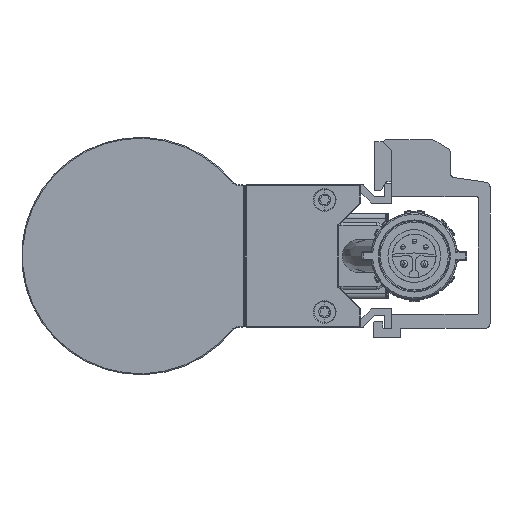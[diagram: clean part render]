
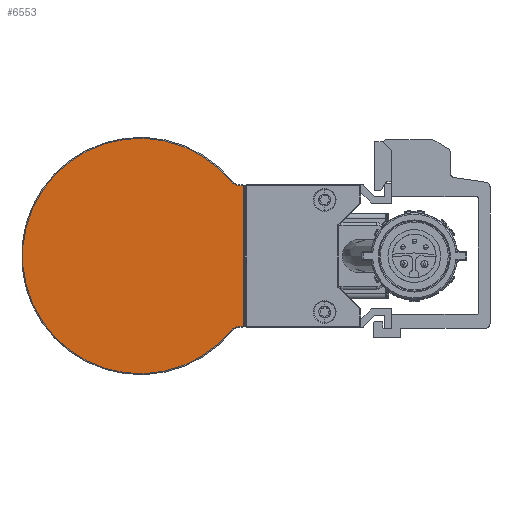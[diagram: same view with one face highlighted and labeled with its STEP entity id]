
A CAD part, left-side view. The second image highlights one B-rep face of the part: STEP entity #6553.
In plain terms, the highlighted planar face has unit normal (-1, 0, 0).
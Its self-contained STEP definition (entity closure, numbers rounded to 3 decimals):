
#265 = CARTESIAN_POINT ( 'NONE',  ( -150., 53.001, 0. ) ) ;
#1164 = VERTEX_POINT ( 'NONE', #10735 ) ;
#1210 = DIRECTION ( 'NONE',  ( 1., 0., 0. ) ) ;
#1422 = CARTESIAN_POINT ( 'NONE',  ( -150., 31.2, -14.5 ) ) ;
#1977 = EDGE_CURVE ( 'NONE', #11833, #1164, #22300, .T. ) ;
#2135 = AXIS2_PLACEMENT_3D ( 'NONE', #43259, #1210, #6245 ) ;
#2343 = VECTOR ( 'NONE', #8556, 1000. ) ;
#6245 = DIRECTION ( 'NONE',  ( 0., 0.777, 0.63 ) ) ;
#6553 = ADVANCED_FACE ( 'NONE', ( #13365 ), #17829, .T. ) ;
#6969 = ORIENTED_EDGE ( 'NONE', *, *, #45917, .T. ) ;
#7053 = CARTESIAN_POINT ( 'NONE',  ( -150., 31.5, -14.8 ) ) ;
#7244 = LINE ( 'NONE', #57435, #13424 ) ;
#8455 = ORIENTED_EDGE ( 'NONE', *, *, #29258, .T. ) ;
#8556 = DIRECTION ( 'NONE',  ( 0., 1., 0. ) ) ;
#9615 = EDGE_LOOP ( 'NONE', ( #6969, #25297, #49518, #37520, #8455, #56233, #53839, #40632 ) ) ;
#10342 = VERTEX_POINT ( 'NONE', #55138 ) ;
#10735 = CARTESIAN_POINT ( 'NONE',  ( -150., 33.734, -15.615 ) ) ;
#10825 = VERTEX_POINT ( 'NONE', #26931 ) ;
#10993 = CIRCLE ( 'NONE', #29133, 0.3 ) ;
#11833 = VERTEX_POINT ( 'NONE', #33276 ) ;
#11996 = VERTEX_POINT ( 'NONE', #23894 ) ;
#12706 = DIRECTION ( 'NONE',  ( 0., 0., -1. ) ) ;
#13365 = FACE_OUTER_BOUND ( 'NONE', #9615, .T. ) ;
#13424 = VECTOR ( 'NONE', #39178, 1000. ) ;
#14928 = CIRCLE ( 'NONE', #48262, 0.3 ) ;
#15358 = AXIS2_PLACEMENT_3D ( 'NONE', #58767, #35454, #53709 ) ;
#15523 = DIRECTION ( 'NONE',  ( 0., -1., 0. ) ) ;
#15816 = CARTESIAN_POINT ( 'NONE',  ( -150., 31.5, 14.5 ) ) ;
#16591 = AXIS2_PLACEMENT_3D ( 'NONE', #265, #18459, #23830 ) ;
#17829 = PLANE ( 'NONE',  #15358 ) ;
#18459 = DIRECTION ( 'NONE',  ( -1., 0., 0. ) ) ;
#18608 = VERTEX_POINT ( 'NONE', #7053 ) ;
#19622 = CIRCLE ( 'NONE', #34899, 2.2 ) ;
#21106 = VECTOR ( 'NONE', #46478, 1000. ) ;
#22300 = CIRCLE ( 'NONE', #16591, 24.8 ) ;
#23830 = DIRECTION ( 'NONE',  ( 0., -0.777, 0.63 ) ) ;
#23894 = CARTESIAN_POINT ( 'NONE',  ( -150., 31.5, 14.8 ) ) ;
#24304 = DIRECTION ( 'NONE',  ( 1., 0., 0. ) ) ;
#25297 = ORIENTED_EDGE ( 'NONE', *, *, #40006, .T. ) ;
#26931 = CARTESIAN_POINT ( 'NONE',  ( -150., 31.2, -14.5 ) ) ;
#27380 = CARTESIAN_POINT ( 'NONE',  ( -150., 31.5, 14.8 ) ) ;
#29133 = AXIS2_PLACEMENT_3D ( 'NONE', #58385, #48786, #12706 ) ;
#29258 = EDGE_CURVE ( 'NONE', #11996, #41020, #49446, .T. ) ;
#30326 = EDGE_CURVE ( 'NONE', #41020, #11833, #19622, .T. ) ;
#30721 = EDGE_CURVE ( 'NONE', #10342, #11996, #14928, .T. ) ;
#33075 = LINE ( 'NONE', #1422, #21106 ) ;
#33276 = CARTESIAN_POINT ( 'NONE',  ( -150., 33.734, 15.614 ) ) ;
#34899 = AXIS2_PLACEMENT_3D ( 'NONE', #51452, #24304, #42481 ) ;
#35454 = DIRECTION ( 'NONE',  ( -1., 0., 0. ) ) ;
#36173 = EDGE_CURVE ( 'NONE', #10825, #10342, #33075, .T. ) ;
#36585 = EDGE_CURVE ( 'NONE', #1164, #38528, #58398, .T. ) ;
#37520 = ORIENTED_EDGE ( 'NONE', *, *, #30721, .T. ) ;
#38528 = VERTEX_POINT ( 'NONE', #51446 ) ;
#39178 = DIRECTION ( 'NONE',  ( 0., -1., 0. ) ) ;
#40006 = EDGE_CURVE ( 'NONE', #18608, #10825, #10993, .T. ) ;
#40632 = ORIENTED_EDGE ( 'NONE', *, *, #36585, .T. ) ;
#41020 = VERTEX_POINT ( 'NONE', #41530 ) ;
#41530 = CARTESIAN_POINT ( 'NONE',  ( -150., 32.025, 14.8 ) ) ;
#42481 = DIRECTION ( 'NONE',  ( 0., 0., -1. ) ) ;
#43259 = CARTESIAN_POINT ( 'NONE',  ( -150., 32.025, -17. ) ) ;
#45917 = EDGE_CURVE ( 'NONE', #38528, #18608, #7244, .T. ) ;
#46478 = DIRECTION ( 'NONE',  ( 0., 0., 1. ) ) ;
#48262 = AXIS2_PLACEMENT_3D ( 'NONE', #15816, #51974, #15523 ) ;
#48786 = DIRECTION ( 'NONE',  ( -1., 0., 0. ) ) ;
#49446 = LINE ( 'NONE', #27380, #2343 ) ;
#49518 = ORIENTED_EDGE ( 'NONE', *, *, #36173, .T. ) ;
#51446 = CARTESIAN_POINT ( 'NONE',  ( -150., 32.025, -14.8 ) ) ;
#51452 = CARTESIAN_POINT ( 'NONE',  ( -150., 32.025, 17. ) ) ;
#51974 = DIRECTION ( 'NONE',  ( -1., 0., 0. ) ) ;
#53709 = DIRECTION ( 'NONE',  ( 0., 0., 1. ) ) ;
#53839 = ORIENTED_EDGE ( 'NONE', *, *, #1977, .T. ) ;
#55138 = CARTESIAN_POINT ( 'NONE',  ( -150., 31.2, 14.5 ) ) ;
#56233 = ORIENTED_EDGE ( 'NONE', *, *, #30326, .T. ) ;
#57435 = CARTESIAN_POINT ( 'NONE',  ( -150., 32.025, -14.8 ) ) ;
#58385 = CARTESIAN_POINT ( 'NONE',  ( -150., 31.5, -14.5 ) ) ;
#58398 = CIRCLE ( 'NONE', #2135, 2.2 ) ;
#58767 = CARTESIAN_POINT ( 'NONE',  ( -150., 53.001, 0. ) ) ;
